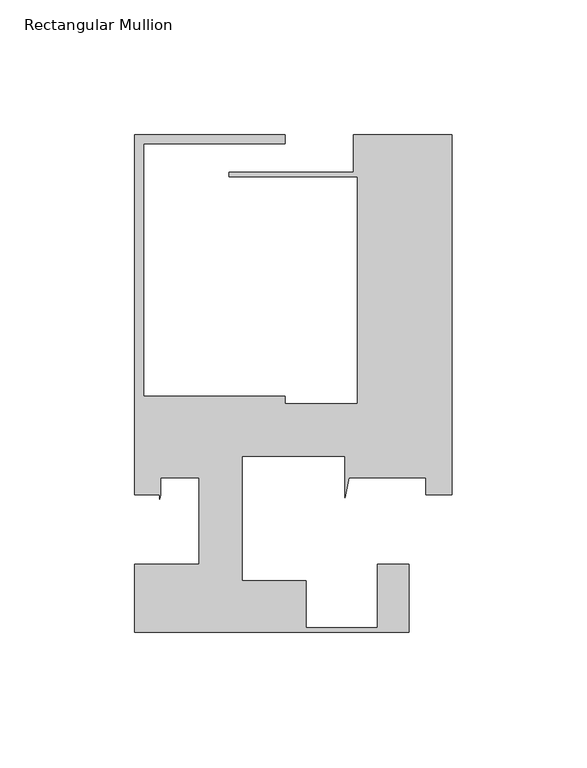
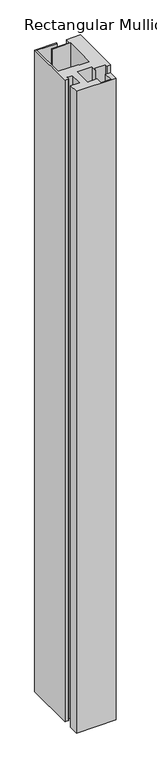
"""IFC4 building model written with IfcOpenShell, lengths in millimetres: member geometry, Rectangular Mullion : Captured Chicken Head Stack."""

from ifc_helpers import new_model, si_unit, frame, origin, place, context, project, spatial, polyline, outline, extrude, source, transform, mapped, element, save


def rectangular_mullion_858beba1(model_context):
    return source(origin(), model_context, "Body", "SweptSolid", [
        extrude(outline(polyline([(-61.8998316, 114.30254), (-61.8998316, 111.1275493), (-114.2999537, 111.1275493), (-114.2999537, 17.4529386), (-61.8998316, 17.4529386), (-61.8998316, 14.7454592), (-34.9249745, 14.7454592), (-34.9249745, 98.8645), (-82.5631556, 98.8645), (-82.5631556, 100.4392965), (-36.5130248, 100.4392965), (-36.5130248, 114.30254), (0.0, 114.30254), (0.0, -19.0105392), (-9.5249909, -19.0105392), (-9.5249909, -12.7), (-38.1999639, -12.7), (-39.6874745, -19.9856123), (-39.6874745, -4.7624076), (-77.7875, -4.7624076), (-77.7875, -50.8), (-53.9750123, -50.8), (-53.9750123, -68.2751632), (-27.6414131, -68.2751632), (-27.6414131, -44.7665099), (-15.8431035, -44.7665099), (-15.8431035, -69.8499672), (-117.4750025, -69.8499672), (-117.4750025, -44.7665099), (-93.6624995, -44.7665099), (-93.6624995, -12.699996), (-107.9500091, -12.699996), (-107.9500091, -19.05), (-108.3471992, -20.5435829), (-108.3471992, -18.9450334), (-117.475, -18.9450334), (-117.475, 114.30254), (-61.8998316, 114.30254)])), frame((0.0, 0.0, -1733.5294337), z_axis=(0.0, 0.0, 1.0), x_axis=(1.0, 0.0, 0.0)), (0.0, 0.0, 1.0), 1733.5294337),
    ])


if __name__ == "__main__":
    model = new_model("IFC4")
    model_context = context("Model", 3, world=origin())
    ifc_project = project(units=[si_unit("LENGTHUNIT", "METRE", prefix="MILLI")], contexts=[model_context])
    site = spatial("IfcSite", under=ifc_project)
    building = spatial("IfcBuilding", under=site)
    placement = place(None, origin())
    rectangular_mullion_shape = rectangular_mullion_858beba1(model_context)
    element("IfcMember", 1, ObjectType="Rectangular Mullion : Captured Chicken Head Stack", at=placement, inside=building, context=model_context, shape_type="MappedRepresentation", body=[
        mapped(rectangular_mullion_shape, transform((0.0, 0.0, 0.0), x_axis=(1.0, 0.0, 0.0), y_axis=(0.0, 1.0, 0.0), z_axis=(0.0, 0.0, 1.0))),
    ])
    save(model, "model.ifc")
